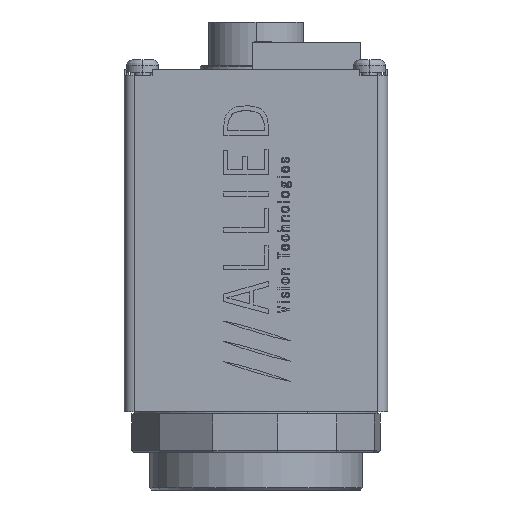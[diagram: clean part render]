
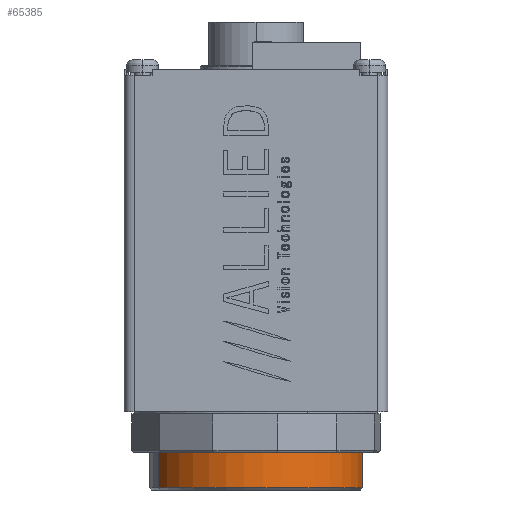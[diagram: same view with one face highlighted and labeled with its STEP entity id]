
A CAD part, left-side view. The second image highlights one B-rep face of the part: STEP entity #65385.
In plain terms, the highlighted cylindrical face has radius 13.335 mm (diameter 26.67 mm), a partial arc.
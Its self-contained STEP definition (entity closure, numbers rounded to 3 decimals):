
#4832 = CIRCLE ( 'NONE', #47428, 13.335 ) ;
#11093 = CARTESIAN_POINT ( 'NONE',  ( 13.335, 0., 13.386 ) ) ;
#11492 = VECTOR ( 'NONE', #143811, 1000. ) ;
#11556 = DIRECTION ( 'NONE',  ( 1., 0., 0. ) ) ;
#11702 = DIRECTION ( 'NONE',  ( 0., 0., -1. ) ) ;
#11943 = CARTESIAN_POINT ( 'NONE',  ( 0., 0., 13.386 ) ) ;
#16502 = CYLINDRICAL_SURFACE ( 'NONE', #173814, 13.335 ) ;
#27695 = EDGE_LOOP ( 'NONE', ( #27743, #118152, #92062, #67044 ) ) ;
#27743 = ORIENTED_EDGE ( 'NONE', *, *, #148776, .F. ) ;
#34572 = EDGE_CURVE ( 'NONE', #49158, #159677, #78150, .T. ) ;
#35226 = CARTESIAN_POINT ( 'NONE',  ( 0., 0., 7.214 ) ) ;
#37472 = CARTESIAN_POINT ( 'NONE',  ( -13.335, 0., 7.214 ) ) ;
#47428 = AXIS2_PLACEMENT_3D ( 'NONE', #35226, #131378, #49209 ) ;
#49158 = VERTEX_POINT ( 'NONE', #11093 ) ;
#49209 = DIRECTION ( 'NONE',  ( 1., 0., 0. ) ) ;
#51491 = EDGE_CURVE ( 'NONE', #140881, #49158, #153347, .T. ) ;
#52068 = CARTESIAN_POINT ( 'NONE',  ( -13.335, 0., 7.214 ) ) ;
#55480 = AXIS2_PLACEMENT_3D ( 'NONE', #11943, #11702, #11556 ) ;
#65385 = ADVANCED_FACE ( 'NONE', ( #66755 ), #16502, .T. ) ;
#66755 = FACE_OUTER_BOUND ( 'NONE', #27695, .T. ) ;
#67044 = ORIENTED_EDGE ( 'NONE', *, *, #34572, .T. ) ;
#70127 = DIRECTION ( 'NONE',  ( 1., 0., 0. ) ) ;
#72331 = DIRECTION ( 'NONE',  ( 0., 0., 1. ) ) ;
#73138 = CARTESIAN_POINT ( 'NONE',  ( 0., 0., 7.214 ) ) ;
#78150 = CIRCLE ( 'NONE', #55480, 13.335 ) ;
#79764 = CARTESIAN_POINT ( 'NONE',  ( 13.335, 0., 7.214 ) ) ;
#92062 = ORIENTED_EDGE ( 'NONE', *, *, #51491, .T. ) ;
#92344 = VERTEX_POINT ( 'NONE', #37472 ) ;
#101773 = LINE ( 'NONE', #52068, #168866 ) ;
#118152 = ORIENTED_EDGE ( 'NONE', *, *, #125137, .T. ) ;
#125137 = EDGE_CURVE ( 'NONE', #92344, #140881, #4832, .T. ) ;
#131378 = DIRECTION ( 'NONE',  ( 0., 0., 1. ) ) ;
#140881 = VERTEX_POINT ( 'NONE', #79764 ) ;
#143614 = CARTESIAN_POINT ( 'NONE',  ( 13.335, 0., 7.214 ) ) ;
#143811 = DIRECTION ( 'NONE',  ( 0., 0., 1. ) ) ;
#146424 = CARTESIAN_POINT ( 'NONE',  ( -13.335, 0., 13.386 ) ) ;
#148776 = EDGE_CURVE ( 'NONE', #92344, #159677, #101773, .T. ) ;
#153347 = LINE ( 'NONE', #143614, #11492 ) ;
#159677 = VERTEX_POINT ( 'NONE', #146424 ) ;
#168866 = VECTOR ( 'NONE', #172284, 1000. ) ;
#172284 = DIRECTION ( 'NONE',  ( 0., 0., 1. ) ) ;
#173814 = AXIS2_PLACEMENT_3D ( 'NONE', #73138, #72331, #70127 ) ;
